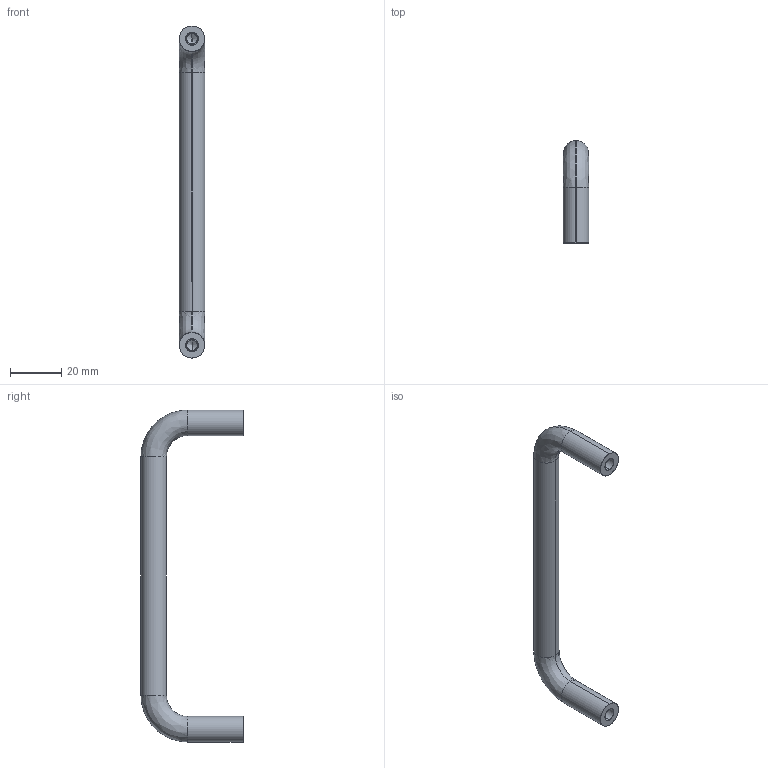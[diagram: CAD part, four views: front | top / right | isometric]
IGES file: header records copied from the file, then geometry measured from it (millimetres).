
Start section: SolidWorks IGES file using analytic representation for surfaces
Global section: file name: C:\Users\IanO\Desktop\Temp File\Process pending\79840_v2\79840_v2_20171115_IGES\79840.W0012.igs; native system: SolidWorks 2017; preprocessor: SolidWorks 2017; author: IanO; date: 171115.103709; units: millimetre
Bounding box: 10 x 40 x 130 mm (x, y, z)
Surface area: 6120 mm2 (no closed solid volume)
Topology: 0 solids, 0 shells, 26 faces, 344 edges, 340 vertices
Faces by surface type: revolution 18, bspline 8
